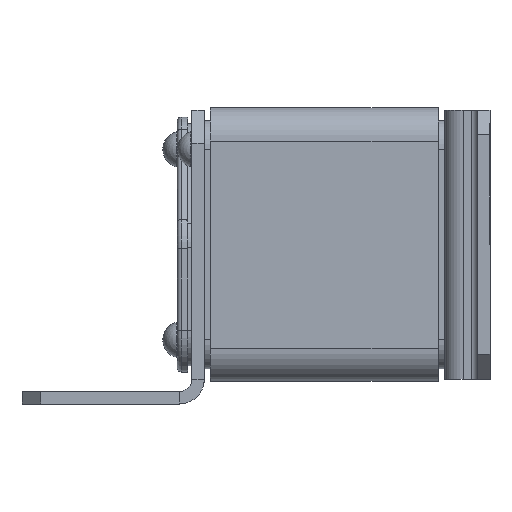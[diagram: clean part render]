
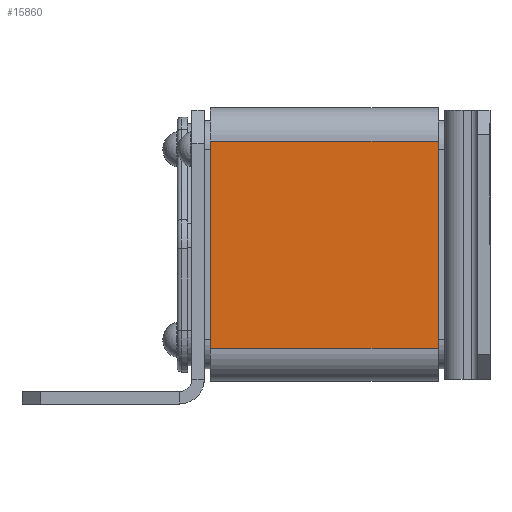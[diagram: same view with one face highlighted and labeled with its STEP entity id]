
A CAD part, left-side view. The second image highlights one B-rep face of the part: STEP entity #15860.
In plain terms, the highlighted planar face has unit normal (-1, 0, 0).
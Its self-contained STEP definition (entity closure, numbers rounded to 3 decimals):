
#77 = EDGE_LOOP ( 'NONE', ( #2920, #3688, #4409, #15099 ) ) ;
#1160 = LINE ( 'NONE', #5485, #2903 ) ;
#1748 = DIRECTION ( 'NONE',  ( 0., 0., 1. ) ) ;
#2561 = CARTESIAN_POINT ( 'NONE',  ( -33., -27.5, -25. ) ) ;
#2751 = CARTESIAN_POINT ( 'NONE',  ( -33., 27.5, 25. ) ) ;
#2827 = PLANE ( 'NONE',  #8808 ) ;
#2903 = VECTOR ( 'NONE', #5355, 1000. ) ;
#2920 = ORIENTED_EDGE ( 'NONE', *, *, #8413, .T. ) ;
#3059 = DIRECTION ( 'NONE',  ( 0., -1., 0. ) ) ;
#3131 = VERTEX_POINT ( 'NONE', #2561 ) ;
#3688 = ORIENTED_EDGE ( 'NONE', *, *, #9204, .F. ) ;
#3917 = VECTOR ( 'NONE', #3059, 1000. ) ;
#4031 = LINE ( 'NONE', #8752, #8626 ) ;
#4057 = DIRECTION ( 'NONE',  ( 0., 0., 1. ) ) ;
#4409 = ORIENTED_EDGE ( 'NONE', *, *, #16510, .F. ) ;
#4806 = VERTEX_POINT ( 'NONE', #7985 ) ;
#5355 = DIRECTION ( 'NONE',  ( 0., -1., 0. ) ) ;
#5357 = VECTOR ( 'NONE', #4057, 1000. ) ;
#5422 = CARTESIAN_POINT ( 'NONE',  ( -33., 27.5, -25. ) ) ;
#5485 = CARTESIAN_POINT ( 'NONE',  ( -33., 27.5, 25. ) ) ;
#7175 = EDGE_CURVE ( 'NONE', #10119, #3131, #15000, .T. ) ;
#7985 = CARTESIAN_POINT ( 'NONE',  ( -33., -27.5, 25. ) ) ;
#8413 = EDGE_CURVE ( 'NONE', #3131, #4806, #4031, .T. ) ;
#8626 = VECTOR ( 'NONE', #1748, 1000. ) ;
#8752 = CARTESIAN_POINT ( 'NONE',  ( -33., -27.5, -25. ) ) ;
#8808 = AXIS2_PLACEMENT_3D ( 'NONE', #5422, #16457, #17827 ) ;
#9204 = EDGE_CURVE ( 'NONE', #16077, #4806, #1160, .T. ) ;
#10119 = VERTEX_POINT ( 'NONE', #10450 ) ;
#10450 = CARTESIAN_POINT ( 'NONE',  ( -33., 27.5, -25. ) ) ;
#13549 = CARTESIAN_POINT ( 'NONE',  ( -33., 27.5, -25. ) ) ;
#14482 = LINE ( 'NONE', #13549, #5357 ) ;
#15000 = LINE ( 'NONE', #16868, #3917 ) ;
#15099 = ORIENTED_EDGE ( 'NONE', *, *, #7175, .T. ) ;
#15419 = FACE_OUTER_BOUND ( 'NONE', #77, .T. ) ;
#15860 = ADVANCED_FACE ( 'NONE', ( #15419 ), #2827, .F. ) ;
#16077 = VERTEX_POINT ( 'NONE', #2751 ) ;
#16457 = DIRECTION ( 'NONE',  ( 1., 0., 0. ) ) ;
#16510 = EDGE_CURVE ( 'NONE', #10119, #16077, #14482, .T. ) ;
#16868 = CARTESIAN_POINT ( 'NONE',  ( -33., 27.5, -25. ) ) ;
#17827 = DIRECTION ( 'NONE',  ( 0., 0., -1. ) ) ;
